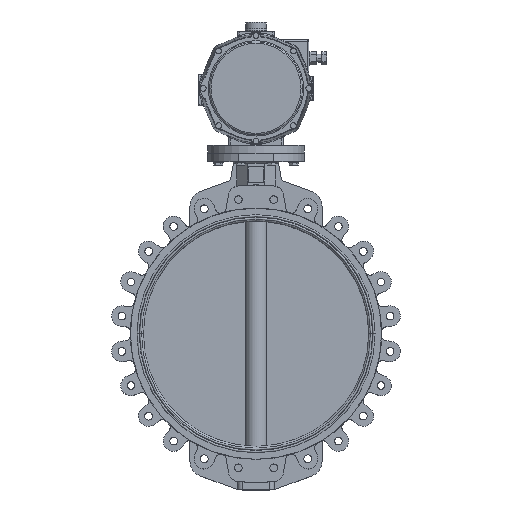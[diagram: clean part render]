
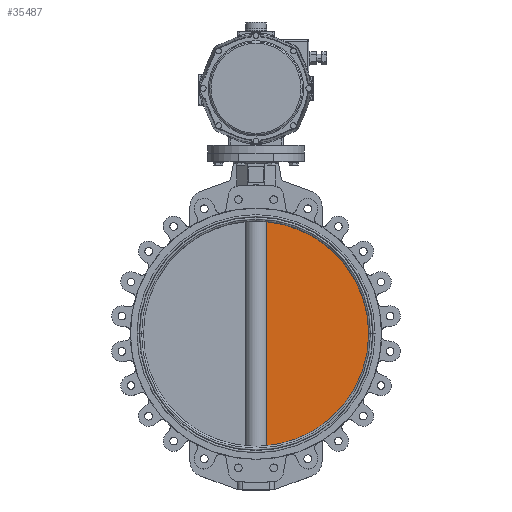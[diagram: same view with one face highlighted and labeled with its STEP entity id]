
A CAD part, top view. The second image highlights one B-rep face of the part: STEP entity #35487.
In plain terms, the highlighted planar face has unit normal (0, 0, 1).
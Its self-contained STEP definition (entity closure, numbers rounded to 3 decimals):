
#258 = CARTESIAN_POINT ( 'NONE',  ( 32.692, 633.001, 12.5 ) ) ;
#1538 = ORIENTED_EDGE ( 'NONE', *, *, #44600, .F. ) ;
#2535 = CARTESIAN_POINT ( 'NONE',  ( 0., 0., 12.5 ) ) ;
#3439 = CARTESIAN_POINT ( 'NONE',  ( 350., 0., 12.5 ) ) ;
#5399 = EDGE_LOOP ( 'NONE', ( #1538, #26702, #48269 ) ) ;
#6833 = CARTESIAN_POINT ( 'NONE',  ( 32.692, 633.001, 12.5 ) ) ;
#8541 = DIRECTION ( 'NONE',  ( 0., -1., 0. ) ) ;
#11735 = CIRCLE ( 'NONE', #28141, 350. ) ;
#13097 = VERTEX_POINT ( 'NONE', #39546 ) ;
#14048 = CARTESIAN_POINT ( 'NONE',  ( 32.692, -348.47, 12.5 ) ) ;
#17364 = DIRECTION ( 'NONE',  ( 0., 0., -1. ) ) ;
#18112 = VERTEX_POINT ( 'NONE', #3439 ) ;
#21681 = FACE_OUTER_BOUND ( 'NONE', #5399, .T. ) ;
#22731 = DIRECTION ( 'NONE',  ( 0., 0., -1. ) ) ;
#24686 = AXIS2_PLACEMENT_3D ( 'NONE', #34498, #22731, #37690 ) ;
#26702 = ORIENTED_EDGE ( 'NONE', *, *, #43833, .T. ) ;
#28141 = AXIS2_PLACEMENT_3D ( 'NONE', #2535, #17364, #37695 ) ;
#32981 = PLANE ( 'NONE',  #39640 ) ;
#34498 = CARTESIAN_POINT ( 'NONE',  ( 0., 0., 12.5 ) ) ;
#35487 = ADVANCED_FACE ( 'NONE', ( #21681 ), #32981, .F. ) ;
#37690 = DIRECTION ( 'NONE',  ( -1., 0., 0. ) ) ;
#37695 = DIRECTION ( 'NONE',  ( -1., 0., 0. ) ) ;
#38372 = VECTOR ( 'NONE', #8541, 1000. ) ;
#39546 = CARTESIAN_POINT ( 'NONE',  ( 32.692, 348.47, 12.5 ) ) ;
#39640 = AXIS2_PLACEMENT_3D ( 'NONE', #258, #44204, #41036 ) ;
#40289 = EDGE_CURVE ( 'NONE', #18112, #44221, #42710, .T. ) ;
#41036 = DIRECTION ( 'NONE',  ( -1., 0., 0. ) ) ;
#42710 = CIRCLE ( 'NONE', #24686, 350. ) ;
#43833 = EDGE_CURVE ( 'NONE', #13097, #44221, #43984, .T. ) ;
#43984 = LINE ( 'NONE', #6833, #38372 ) ;
#44204 = DIRECTION ( 'NONE',  ( 0., 0., -1. ) ) ;
#44221 = VERTEX_POINT ( 'NONE', #14048 ) ;
#44600 = EDGE_CURVE ( 'NONE', #13097, #18112, #11735, .T. ) ;
#48269 = ORIENTED_EDGE ( 'NONE', *, *, #40289, .F. ) ;
